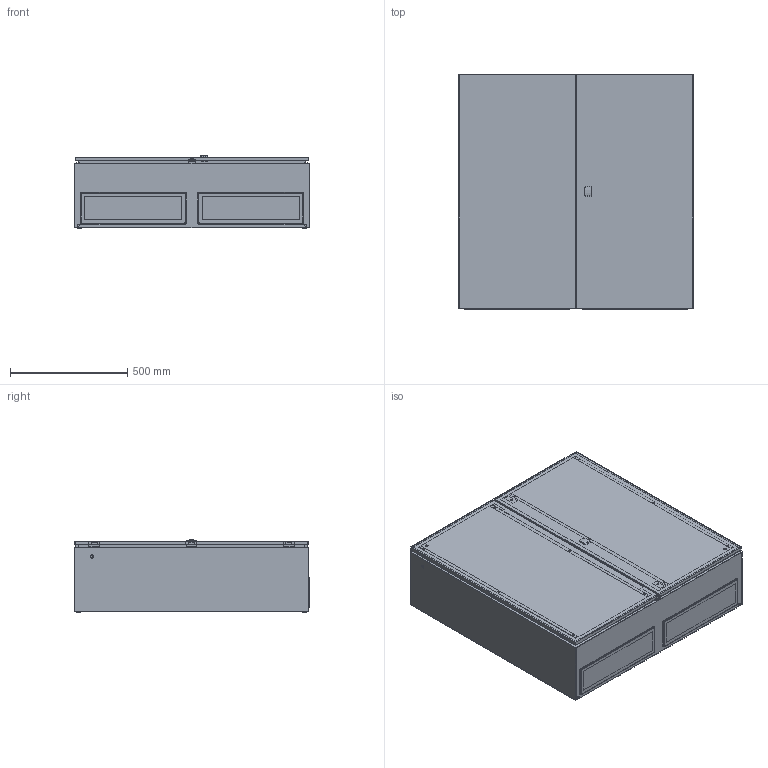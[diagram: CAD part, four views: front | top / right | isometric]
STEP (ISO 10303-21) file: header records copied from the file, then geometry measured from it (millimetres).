
FILE_DESCRIPTION(/* description */ ('STEP AP203'),/* implementation_level */ '2;1');
FILE_NAME(/* name */ 'MAD1001030R5(0)',/* time_stamp */ '2024-03-13T10:09:28+01:00',/* author */ ('License CC BY-ND 4.0'),/* organization */ ('CADENAS'),/* preprocessor_version */ 'ST-DEVELOPER v19.3',/* originating_system */ 'PARTsolutions',/* authorisation */ ' ');
FILE_SCHEMA (('CONFIG_CONTROL_DESIGN'));
Length unit declared in the file: millimetre
Products named in the file (13): MAD1001030R5(0); MAD1001030(0); MMSH06SS(0)_right; ADP10010RR5(0); ALL503(0,2.8); MADLS1000(0); 8844-0649-02(0)_Rod guide; AMP10100_MPL(0); AF03R5_GP(0); AG03_GPG(0); MMSH06SS(0)_left; ADP10010LR5(0); 8195-1005_0
Assembly tree (20 placements, depth 2):
  MAD1001030R5(0)
    MAD1001030(0)
    MMSH06SS(0)_right  x3
    ADP10010RR5(0)
    ALL503(0,2.8)
    MADLS1000(0)
    8844-0649-02(0)_Rod guide  x2
    AMP10100_MPL(0)
    AF03R5_GP(0)  x2
    AG03_GPG(0)  x2
    MMSH06SS(0)_left  x3
    ADP10010LR5(0)
    8195-1005_0  x2
Bounding box: 1000 x 1003.9 x 308.72 mm (x, y, z)
Volume: 9042079.6 mm3; surface area: 9128328.6 mm2
Topology: 20 solids, 20 shells, 1018 faces, 2521 edges, 1647 vertices
Faces by surface type: plane 687, cylinder 224, cone 93, torus 14
Full cylindrical faces by diameter (mm): 4 x4, 4.9 x6, 5 x1, 5.8 x2, 6 x14, 6.5 x4, 6.9 x2, 7 x12, 7.75 x2, 8 x16, 8.5 x4, 8.7 x2, 9 x8, 14 x12, 15 x4, 18 x1, 27 x1
Entity records: 25556 total; most frequent: CARTESIAN_POINT 4463, DIRECTION 4205, ORIENTED_EDGE 3884, EDGE_CURVE 1942, AXIS2_PLACEMENT_3D 1429, VERTEX_POINT 1357, LINE 1347, VECTOR 1347
